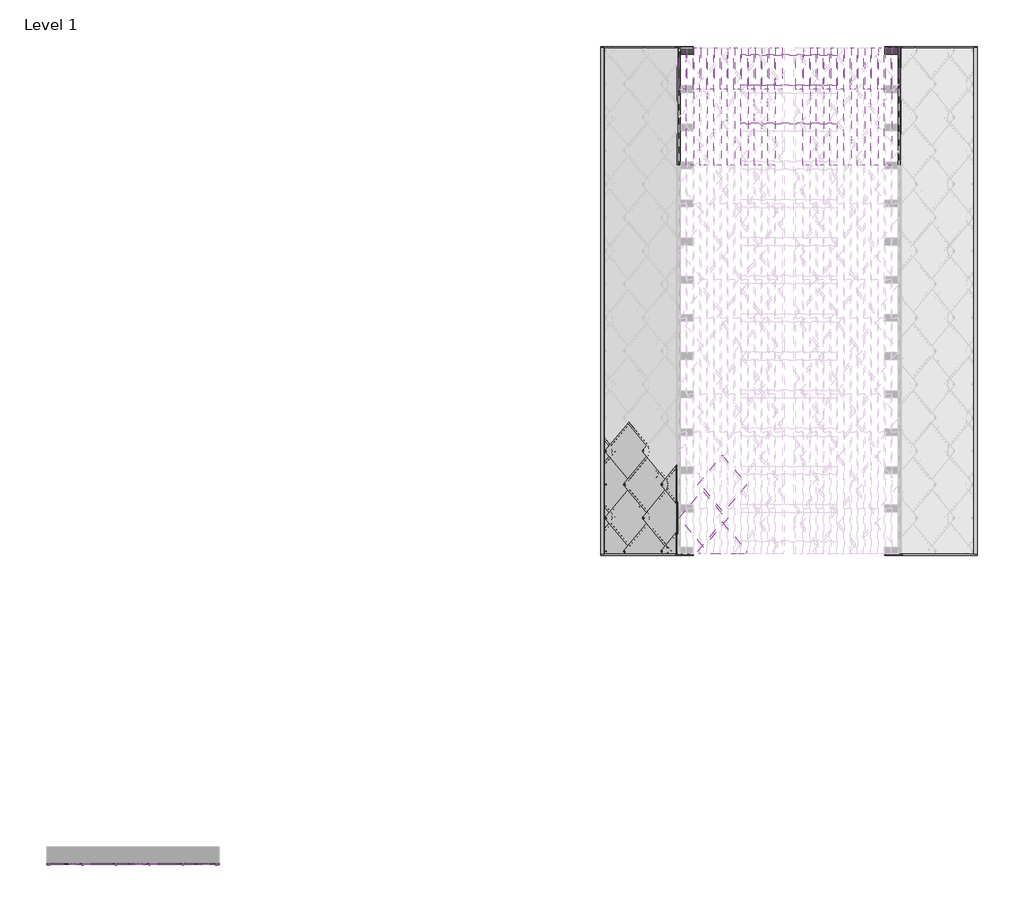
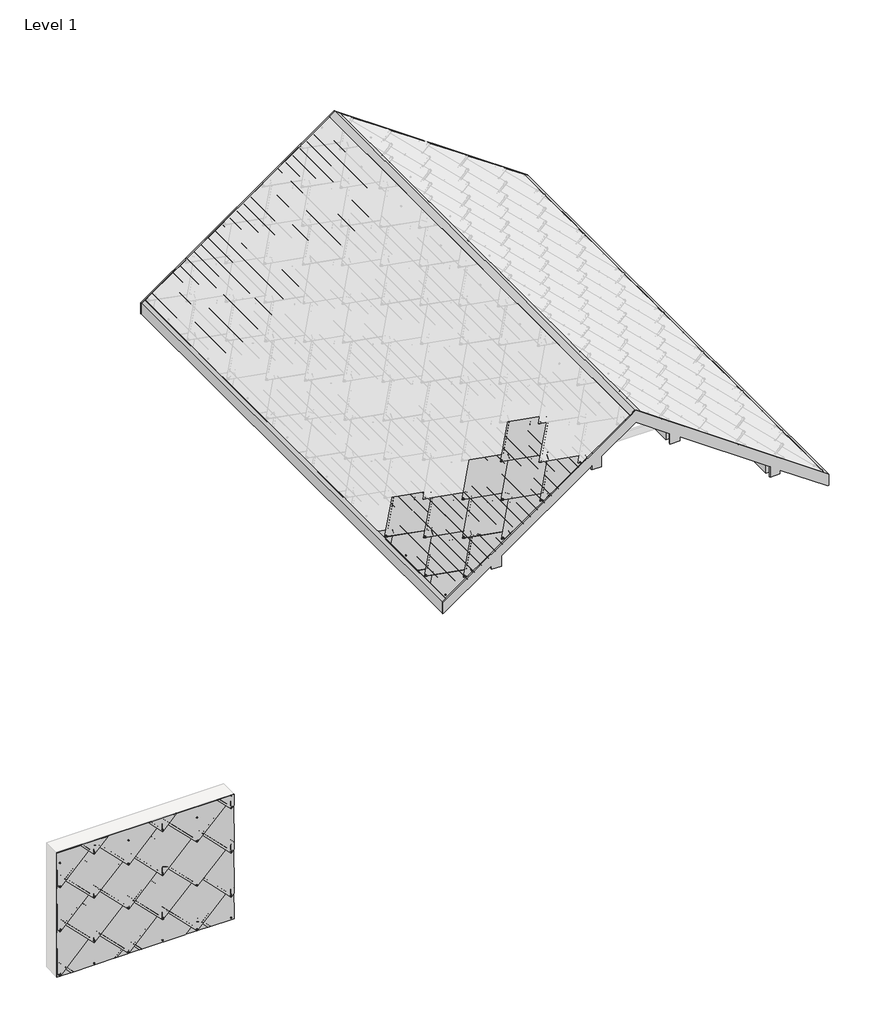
# One storey, part 3 of 5: 74 beams, 38 proxies.
"""IFC4 building model written with IfcOpenShell, lengths in millimetres."""

from ifc_helpers import new_model, si_unit, origin, place, context, project, spatial, transform, mapped, element, save
from components import structural_framing_1_structural_framing_1_4f4e03de, structural_framing_104_structural_framing_15_200a1adf, structural_framing_105_structural_framing_15_bbb8b2a2, structural_framing_150_structural_framing_15_f334a7cf, structural_framing_151_structural_framing_15_911aee75, structural_framing_152_structural_framing_15_fae30983, structural_framing_154_structural_framing_15_ddedf780, structural_framing_164_structural_framing_15_c8a2bcaa, structural_framing_155_structural_framing_15_fbad98d9, structural_framing_156_structural_framing_15_8572bb24, structural_framing_290_structural_framing_15_fb813978, structural_framing_291_structural_framing_15_41421fa0, structural_framing_293_structural_framing_15_7859e044, structural_framing_294_structural_framing_15_d6bc8154, structural_framing_295_structural_framing_295_6c3cb5e9, structural_framing_296_structural_framing_296_04115515, structural_framing_298_structural_framing_296_1c13a3da, structural_framing_321_structural_framing_321_04959c51, structural_framing_323_structural_framing_323_983c3ce1, structural_framing_324_structural_framing_323_6074106b, generic_models_167ef6fe, generic_models_283bab78, generic_models_68cb1fd1, generic_models_c61de7e8, generic_models_f07d85a3, generic_models_f7f51557, generic_models_13c94d74, generic_models_ae19c19d, generic_models_441e44e2, roofing_panels_sunstyle_tuile_basse_tuile_basse_noir_b4a41e6e, roofing_panels_sunstyle_tuile_haute_tuile_haute_noir_3c2a6519, generic_models_39b62107

model = new_model("IFC4")

# Units and contexts
model_context = context("Model", 3, world=origin())
ifc_project = project(units=[si_unit("LENGTHUNIT", "METRE", prefix="MILLI")], contexts=[model_context])

# Site, building, storey
site = spatial("IfcSite", under=ifc_project)
building = spatial("IfcBuilding", under=site)
storey = spatial("IfcBuildingStorey", under=building, Name="Level 1", Elevation=0.0)

# Beams
placement = place(None, origin())
structural_framing_1_structural_framing_1_shape = structural_framing_1_structural_framing_1_4f4e03de(model_context)
element("IfcBeam", 1, ObjectType="Structural Framing 1 : Structural Framing 1", at=placement, inside=storey, context=model_context, shape_type="MappedRepresentation", body=[
    mapped(structural_framing_1_structural_framing_1_shape, transform((0.0, 0.0, 0.0), x_axis=(1.0, 0.0, 0.0), y_axis=(0.0, 1.0, 0.0), z_axis=(0.0, 0.0, 1.0))),
])
structural_framing_104_structural_framing_15_shape = structural_framing_104_structural_framing_15_200a1adf(model_context)
element("IfcBeam", 2, ObjectType="Structural Framing 104 : Structural Framing 15", at=placement, inside=storey, context=model_context, shape_type="MappedRepresentation", body=[
    mapped(structural_framing_104_structural_framing_15_shape, transform((-2427.8516115, 0.0, -1700.0), x_axis=(1.0, 0.0, 0.0), y_axis=(0.0, 1.0, 0.0), z_axis=(0.0, 0.0, 1.0))),
])
structural_framing_105_structural_framing_15_shape = structural_framing_105_structural_framing_15_bbb8b2a2(model_context)
element("IfcBeam", 3, ObjectType="Structural Framing 105 : Structural Framing 15", at=placement, inside=storey, context=model_context, shape_type="MappedRepresentation", body=[
    mapped(structural_framing_105_structural_framing_15_shape, transform((-2570.6664121, 0.0, -1800.0), x_axis=(1.0, 0.0, 0.0), y_axis=(0.0, 1.0, 0.0), z_axis=(0.0, 0.0, 1.0))),
])
element("IfcBeam", 4, ObjectType="Structural Framing 114 : Structural Framing 15", at=placement, inside=storey, context=model_context, shape_type="MappedRepresentation", body=[
    mapped(structural_framing_104_structural_framing_15_shape, transform((-2713.4812128, 0.0, -1900.0), x_axis=(1.0, 0.0, 0.0), y_axis=(0.0, 1.0, 0.0), z_axis=(0.0, 0.0, 1.0))),
])
element("IfcBeam", 5, ObjectType="Structural Framing 115 : Structural Framing 15", at=placement, inside=storey, context=model_context, shape_type="MappedRepresentation", body=[
    mapped(structural_framing_105_structural_framing_15_shape, transform((-2856.2960135, 0.0, -2000.0), x_axis=(1.0, 0.0, 0.0), y_axis=(0.0, 1.0, 0.0), z_axis=(0.0, 0.0, 1.0))),
])
element("IfcBeam", 6, ObjectType="Structural Framing 124 : Structural Framing 15", at=placement, inside=storey, context=model_context, shape_type="MappedRepresentation", body=[
    mapped(structural_framing_104_structural_framing_15_shape, transform((-2999.1108142, 0.0, -2100.0), x_axis=(1.0, 0.0, 0.0), y_axis=(0.0, 1.0, 0.0), z_axis=(0.0, 0.0, 1.0))),
])
element("IfcBeam", 7, ObjectType="Structural Framing 125 : Structural Framing 15", at=placement, inside=storey, context=model_context, shape_type="MappedRepresentation", body=[
    mapped(structural_framing_105_structural_framing_15_shape, transform((-3141.9256148, 0.0, -2200.0), x_axis=(1.0, 0.0, 0.0), y_axis=(0.0, 1.0, 0.0), z_axis=(0.0, 0.0, 1.0))),
])
element("IfcBeam", 8, ObjectType="Structural Framing 134 : Structural Framing 15", at=placement, inside=storey, context=model_context, shape_type="MappedRepresentation", body=[
    mapped(structural_framing_104_structural_framing_15_shape, transform((-3284.7404155, 0.0, -2300.0), x_axis=(1.0, 0.0, 0.0), y_axis=(0.0, 1.0, 0.0), z_axis=(0.0, 0.0, 1.0))),
])
element("IfcBeam", 9, ObjectType="Structural Framing 135 : Structural Framing 15", at=placement, inside=storey, context=model_context, shape_type="MappedRepresentation", body=[
    mapped(structural_framing_105_structural_framing_15_shape, transform((-3427.5552162, 0.0, -2400.0), x_axis=(1.0, 0.0, 0.0), y_axis=(0.0, 1.0, 0.0), z_axis=(0.0, 0.0, 1.0))),
])
element("IfcBeam", 10, ObjectType="Structural Framing 144 : Structural Framing 15", at=placement, inside=storey, context=model_context, shape_type="MappedRepresentation", body=[
    mapped(structural_framing_104_structural_framing_15_shape, transform((-3570.3700169, 0.0, -2500.0), x_axis=(1.0, 0.0, 0.0), y_axis=(0.0, 1.0, 0.0), z_axis=(0.0, 0.0, 1.0))),
])
element("IfcBeam", 11, ObjectType="Structural Framing 145 : Structural Framing 15", at=placement, inside=storey, context=model_context, shape_type="MappedRepresentation", body=[
    mapped(structural_framing_105_structural_framing_15_shape, transform((-3713.1848175, 0.0, -2600.0), x_axis=(1.0, 0.0, 0.0), y_axis=(0.0, 1.0, 0.0), z_axis=(0.0, 0.0, 1.0))),
])
structural_framing_150_structural_framing_15_shape = structural_framing_150_structural_framing_15_f334a7cf(model_context)
element("IfcBeam", 12, ObjectType="Structural Framing 150 : Structural Framing 15", at=placement, inside=storey, context=model_context, shape_type="MappedRepresentation", body=[
    mapped(structural_framing_150_structural_framing_15_shape, transform((0.0, 0.0, 0.0), x_axis=(1.0, 0.0, 0.0), y_axis=(0.0, 1.0, 0.0), z_axis=(0.0, 0.0, 1.0))),
])
structural_framing_151_structural_framing_15_shape = structural_framing_151_structural_framing_15_911aee75(model_context)
element("IfcBeam", 13, ObjectType="Structural Framing 151 : Structural Framing 15", at=placement, inside=storey, context=model_context, shape_type="MappedRepresentation", body=[
    mapped(structural_framing_151_structural_framing_15_shape, transform((0.0, 2367.5, 0.0), x_axis=(1.0, 0.0, 0.0), y_axis=(0.0, 1.0, 0.0), z_axis=(0.0, 0.0, 1.0))),
])
structural_framing_152_structural_framing_15_shape = structural_framing_152_structural_framing_15_fae30983(model_context)
element("IfcBeam", 14, ObjectType="Structural Framing 152 : Structural Framing 15", at=placement, inside=storey, context=model_context, shape_type="MappedRepresentation", body=[
    mapped(structural_framing_152_structural_framing_15_shape, transform((0.0, 4837.5, 0.0), x_axis=(1.0, 0.0, 0.0), y_axis=(0.0, 1.0, 0.0), z_axis=(0.0, 0.0, 1.0))),
])
element("IfcBeam", 15, ObjectType="Structural Framing 153 : Structural Framing 15", at=placement, inside=storey, context=model_context, shape_type="MappedRepresentation", body=[
    mapped(structural_framing_152_structural_framing_15_shape, transform((0.0, 7237.5, 0.0), x_axis=(1.0, 0.0, 0.0), y_axis=(0.0, 1.0, 0.0), z_axis=(0.0, 0.0, 1.0))),
])
structural_framing_154_structural_framing_15_shape = structural_framing_154_structural_framing_15_ddedf780(model_context)
element("IfcBeam", 16, ObjectType="Structural Framing 154 : Structural Framing 15", at=placement, inside=storey, context=model_context, shape_type="MappedRepresentation", body=[
    mapped(structural_framing_154_structural_framing_15_shape, transform((0.0, 9637.5, 0.0), x_axis=(1.0, 0.0, 0.0), y_axis=(0.0, 1.0, 0.0), z_axis=(0.0, 0.0, 1.0))),
])
structural_framing_164_structural_framing_15_shape = structural_framing_164_structural_framing_15_c8a2bcaa(model_context)
element("IfcBeam", 17, ObjectType="Structural Framing 164 : Structural Framing 15", at=placement, inside=storey, context=model_context, shape_type="MappedRepresentation", body=[
    mapped(structural_framing_164_structural_framing_15_shape, transform((142.8148007, 0.0, -100.0), x_axis=(1.0, 0.0, 0.0), y_axis=(0.0, 1.0, 0.0), z_axis=(0.0, 0.0, 1.0))),
])
structural_framing_155_structural_framing_15_shape = structural_framing_155_structural_framing_15_fbad98d9(model_context)
element("IfcBeam", 18, ObjectType="Structural Framing 165 : Structural Framing 15", at=placement, inside=storey, context=model_context, shape_type="MappedRepresentation", body=[
    mapped(structural_framing_155_structural_framing_15_shape, transform((285.6296013, 0.0, -200.0), x_axis=(1.0, 0.0, 0.0), y_axis=(0.0, 1.0, 0.0), z_axis=(0.0, 0.0, 1.0))),
])
element("IfcBeam", 19, ObjectType="Structural Framing 174 : Structural Framing 15", at=placement, inside=storey, context=model_context, shape_type="MappedRepresentation", body=[
    mapped(structural_framing_164_structural_framing_15_shape, transform((428.444402, 0.0, -300.0), x_axis=(1.0, 0.0, 0.0), y_axis=(0.0, 1.0, 0.0), z_axis=(0.0, 0.0, 1.0))),
])
element("IfcBeam", 20, ObjectType="Structural Framing 175 : Structural Framing 15", at=placement, inside=storey, context=model_context, shape_type="MappedRepresentation", body=[
    mapped(structural_framing_155_structural_framing_15_shape, transform((571.2592027, 0.0, -400.0), x_axis=(1.0, 0.0, 0.0), y_axis=(0.0, 1.0, 0.0), z_axis=(0.0, 0.0, 1.0))),
])
element("IfcBeam", 21, ObjectType="Structural Framing 184 : Structural Framing 15", at=placement, inside=storey, context=model_context, shape_type="MappedRepresentation", body=[
    mapped(structural_framing_164_structural_framing_15_shape, transform((714.0740034, 0.0, -500.0), x_axis=(1.0, 0.0, 0.0), y_axis=(0.0, 1.0, 0.0), z_axis=(0.0, 0.0, 1.0))),
])
element("IfcBeam", 22, ObjectType="Structural Framing 185 : Structural Framing 15", at=placement, inside=storey, context=model_context, shape_type="MappedRepresentation", body=[
    mapped(structural_framing_155_structural_framing_15_shape, transform((856.888804, 0.0, -600.0), x_axis=(1.0, 0.0, 0.0), y_axis=(0.0, 1.0, 0.0), z_axis=(0.0, 0.0, 1.0))),
])
element("IfcBeam", 23, ObjectType="Structural Framing 194 : Structural Framing 15", at=placement, inside=storey, context=model_context, shape_type="MappedRepresentation", body=[
    mapped(structural_framing_164_structural_framing_15_shape, transform((999.7036047, 0.0, -700.0), x_axis=(1.0, 0.0, 0.0), y_axis=(0.0, 1.0, 0.0), z_axis=(0.0, 0.0, 1.0))),
])
element("IfcBeam", 24, ObjectType="Structural Framing 195 : Structural Framing 15", at=placement, inside=storey, context=model_context, shape_type="MappedRepresentation", body=[
    mapped(structural_framing_155_structural_framing_15_shape, transform((1142.5184054, 0.0, -800.0), x_axis=(1.0, 0.0, 0.0), y_axis=(0.0, 1.0, 0.0), z_axis=(0.0, 0.0, 1.0))),
])
element("IfcBeam", 25, ObjectType="Structural Framing 204 : Structural Framing 15", at=placement, inside=storey, context=model_context, shape_type="MappedRepresentation", body=[
    mapped(structural_framing_164_structural_framing_15_shape, transform((1285.3332061, 0.0, -900.0), x_axis=(1.0, 0.0, 0.0), y_axis=(0.0, 1.0, 0.0), z_axis=(0.0, 0.0, 1.0))),
])
element("IfcBeam", 26, ObjectType="Structural Framing 205 : Structural Framing 15", at=placement, inside=storey, context=model_context, shape_type="MappedRepresentation", body=[
    mapped(structural_framing_155_structural_framing_15_shape, transform((1428.1480067, 0.0, -1000.0), x_axis=(1.0, 0.0, 0.0), y_axis=(0.0, 1.0, 0.0), z_axis=(0.0, 0.0, 1.0))),
])
element("IfcBeam", 27, ObjectType="Structural Framing 214 : Structural Framing 15", at=placement, inside=storey, context=model_context, shape_type="MappedRepresentation", body=[
    mapped(structural_framing_164_structural_framing_15_shape, transform((1570.9628074, 0.0, -1100.0), x_axis=(1.0, 0.0, 0.0), y_axis=(0.0, 1.0, 0.0), z_axis=(0.0, 0.0, 1.0))),
])
element("IfcBeam", 28, ObjectType="Structural Framing 215 : Structural Framing 15", at=placement, inside=storey, context=model_context, shape_type="MappedRepresentation", body=[
    mapped(structural_framing_155_structural_framing_15_shape, transform((1713.7776081, 0.0, -1200.0), x_axis=(1.0, 0.0, 0.0), y_axis=(0.0, 1.0, 0.0), z_axis=(0.0, 0.0, 1.0))),
])
element("IfcBeam", 29, ObjectType="Structural Framing 224 : Structural Framing 15", at=placement, inside=storey, context=model_context, shape_type="MappedRepresentation", body=[
    mapped(structural_framing_164_structural_framing_15_shape, transform((1856.5924088, 0.0, -1300.0), x_axis=(1.0, 0.0, 0.0), y_axis=(0.0, 1.0, 0.0), z_axis=(0.0, 0.0, 1.0))),
])
element("IfcBeam", 30, ObjectType="Structural Framing 225 : Structural Framing 15", at=placement, inside=storey, context=model_context, shape_type="MappedRepresentation", body=[
    mapped(structural_framing_155_structural_framing_15_shape, transform((1999.4072094, 0.0, -1400.0), x_axis=(1.0, 0.0, 0.0), y_axis=(0.0, 1.0, 0.0), z_axis=(0.0, 0.0, 1.0))),
])
element("IfcBeam", 31, ObjectType="Structural Framing 234 : Structural Framing 15", at=placement, inside=storey, context=model_context, shape_type="MappedRepresentation", body=[
    mapped(structural_framing_164_structural_framing_15_shape, transform((2142.2220101, 0.0, -1500.0), x_axis=(1.0, 0.0, 0.0), y_axis=(0.0, 1.0, 0.0), z_axis=(0.0, 0.0, 1.0))),
])
element("IfcBeam", 32, ObjectType="Structural Framing 235 : Structural Framing 15", at=placement, inside=storey, context=model_context, shape_type="MappedRepresentation", body=[
    mapped(structural_framing_155_structural_framing_15_shape, transform((2285.0368108, 0.0, -1600.0), x_axis=(1.0, 0.0, 0.0), y_axis=(0.0, 1.0, 0.0), z_axis=(0.0, 0.0, 1.0))),
])
element("IfcBeam", 33, ObjectType="Structural Framing 24 : Structural Framing 15", at=placement, inside=storey, context=model_context, shape_type="MappedRepresentation", body=[
    mapped(structural_framing_104_structural_framing_15_shape, transform((-142.8148007, 0.0, -100.0), x_axis=(1.0, 0.0, 0.0), y_axis=(0.0, 1.0, 0.0), z_axis=(0.0, 0.0, 1.0))),
])
element("IfcBeam", 34, ObjectType="Structural Framing 244 : Structural Framing 15", at=placement, inside=storey, context=model_context, shape_type="MappedRepresentation", body=[
    mapped(structural_framing_164_structural_framing_15_shape, transform((2427.8516115, 0.0, -1700.0), x_axis=(1.0, 0.0, 0.0), y_axis=(0.0, 1.0, 0.0), z_axis=(0.0, 0.0, 1.0))),
])
element("IfcBeam", 35, ObjectType="Structural Framing 245 : Structural Framing 15", at=placement, inside=storey, context=model_context, shape_type="MappedRepresentation", body=[
    mapped(structural_framing_155_structural_framing_15_shape, transform((2570.6664121, 0.0, -1800.0), x_axis=(1.0, 0.0, 0.0), y_axis=(0.0, 1.0, 0.0), z_axis=(0.0, 0.0, 1.0))),
])
element("IfcBeam", 36, ObjectType="Structural Framing 25 : Structural Framing 15", at=placement, inside=storey, context=model_context, shape_type="MappedRepresentation", body=[
    mapped(structural_framing_105_structural_framing_15_shape, transform((-285.6296013, 0.0, -200.0), x_axis=(1.0, 0.0, 0.0), y_axis=(0.0, 1.0, 0.0), z_axis=(0.0, 0.0, 1.0))),
])
structural_framing_156_structural_framing_15_shape = structural_framing_156_structural_framing_15_8572bb24(model_context)
element("IfcBeam", 37, ObjectType="Structural Framing 250 : Structural Framing 15", at=placement, inside=storey, context=model_context, shape_type="MappedRepresentation", body=[
    mapped(structural_framing_156_structural_framing_15_shape, transform((2713.4812128, -870.0, -1900.0), x_axis=(1.0, 0.0, 0.0), y_axis=(0.0, 1.0, 0.0), z_axis=(0.0, 0.0, 1.0))),
])
element("IfcBeam", 38, ObjectType="Structural Framing 254 : Structural Framing 15", at=placement, inside=storey, context=model_context, shape_type="MappedRepresentation", body=[
    mapped(structural_framing_164_structural_framing_15_shape, transform((2713.4812128, 0.0, -1900.0), x_axis=(1.0, 0.0, 0.0), y_axis=(0.0, 1.0, 0.0), z_axis=(0.0, 0.0, 1.0))),
])
element("IfcBeam", 39, ObjectType="Structural Framing 255 : Structural Framing 15", at=placement, inside=storey, context=model_context, shape_type="MappedRepresentation", body=[
    mapped(structural_framing_155_structural_framing_15_shape, transform((2856.2960135, 0.0, -2000.0), x_axis=(1.0, 0.0, 0.0), y_axis=(0.0, 1.0, 0.0), z_axis=(0.0, 0.0, 1.0))),
])
element("IfcBeam", 40, ObjectType="Structural Framing 260 : Structural Framing 15", at=placement, inside=storey, context=model_context, shape_type="MappedRepresentation", body=[
    mapped(structural_framing_156_structural_framing_15_shape, transform((2999.1108142, -870.0, -2100.0), x_axis=(1.0, 0.0, 0.0), y_axis=(0.0, 1.0, 0.0), z_axis=(0.0, 0.0, 1.0))),
])
element("IfcBeam", 41, ObjectType="Structural Framing 264 : Structural Framing 15", at=placement, inside=storey, context=model_context, shape_type="MappedRepresentation", body=[
    mapped(structural_framing_164_structural_framing_15_shape, transform((2999.1108142, 0.0, -2100.0), x_axis=(1.0, 0.0, 0.0), y_axis=(0.0, 1.0, 0.0), z_axis=(0.0, 0.0, 1.0))),
])
element("IfcBeam", 42, ObjectType="Structural Framing 265 : Structural Framing 15", at=placement, inside=storey, context=model_context, shape_type="MappedRepresentation", body=[
    mapped(structural_framing_155_structural_framing_15_shape, transform((3141.9256148, 0.0, -2200.0), x_axis=(1.0, 0.0, 0.0), y_axis=(0.0, 1.0, 0.0), z_axis=(0.0, 0.0, 1.0))),
])
element("IfcBeam", 43, ObjectType="Structural Framing 270 : Structural Framing 15", at=placement, inside=storey, context=model_context, shape_type="MappedRepresentation", body=[
    mapped(structural_framing_156_structural_framing_15_shape, transform((3284.7404155, -870.0, -2300.0), x_axis=(1.0, 0.0, 0.0), y_axis=(0.0, 1.0, 0.0), z_axis=(0.0, 0.0, 1.0))),
])
element("IfcBeam", 44, ObjectType="Structural Framing 274 : Structural Framing 15", at=placement, inside=storey, context=model_context, shape_type="MappedRepresentation", body=[
    mapped(structural_framing_164_structural_framing_15_shape, transform((3284.7404155, 0.0, -2300.0), x_axis=(1.0, 0.0, 0.0), y_axis=(0.0, 1.0, 0.0), z_axis=(0.0, 0.0, 1.0))),
])
element("IfcBeam", 45, ObjectType="Structural Framing 275 : Structural Framing 15", at=placement, inside=storey, context=model_context, shape_type="MappedRepresentation", body=[
    mapped(structural_framing_155_structural_framing_15_shape, transform((3427.5552162, 0.0, -2400.0), x_axis=(1.0, 0.0, 0.0), y_axis=(0.0, 1.0, 0.0), z_axis=(0.0, 0.0, 1.0))),
])
element("IfcBeam", 46, ObjectType="Structural Framing 280 : Structural Framing 15", at=placement, inside=storey, context=model_context, shape_type="MappedRepresentation", body=[
    mapped(structural_framing_156_structural_framing_15_shape, transform((3570.3700169, -870.0, -2500.0), x_axis=(1.0, 0.0, 0.0), y_axis=(0.0, 1.0, 0.0), z_axis=(0.0, 0.0, 1.0))),
])
element("IfcBeam", 47, ObjectType="Structural Framing 284 : Structural Framing 15", at=placement, inside=storey, context=model_context, shape_type="MappedRepresentation", body=[
    mapped(structural_framing_164_structural_framing_15_shape, transform((3570.3700169, 0.0, -2500.0), x_axis=(1.0, 0.0, 0.0), y_axis=(0.0, 1.0, 0.0), z_axis=(0.0, 0.0, 1.0))),
])
element("IfcBeam", 48, ObjectType="Structural Framing 285 : Structural Framing 15", at=placement, inside=storey, context=model_context, shape_type="MappedRepresentation", body=[
    mapped(structural_framing_155_structural_framing_15_shape, transform((3713.1848175, 0.0, -2600.0), x_axis=(1.0, 0.0, 0.0), y_axis=(0.0, 1.0, 0.0), z_axis=(0.0, 0.0, 1.0))),
])
structural_framing_290_structural_framing_15_shape = structural_framing_290_structural_framing_15_fb813978(model_context)
element("IfcBeam", 49, ObjectType="Structural Framing 290 : Structural Framing 15", at=placement, inside=storey, context=model_context, shape_type="MappedRepresentation", body=[
    mapped(structural_framing_290_structural_framing_15_shape, transform((0.0, 2367.5, 0.0), x_axis=(1.0, 0.0, 0.0), y_axis=(0.0, 1.0, 0.0), z_axis=(0.0, 0.0, 1.0))),
])
structural_framing_291_structural_framing_15_shape = structural_framing_291_structural_framing_15_41421fa0(model_context)
element("IfcBeam", 50, ObjectType="Structural Framing 291 : Structural Framing 15", at=placement, inside=storey, context=model_context, shape_type="MappedRepresentation", body=[
    mapped(structural_framing_291_structural_framing_15_shape, transform((0.0, 4837.5, 0.0), x_axis=(1.0, 0.0, 0.0), y_axis=(0.0, 1.0, 0.0), z_axis=(0.0, 0.0, 1.0))),
])
element("IfcBeam", 51, ObjectType="Structural Framing 292 : Structural Framing 15", at=placement, inside=storey, context=model_context, shape_type="MappedRepresentation", body=[
    mapped(structural_framing_291_structural_framing_15_shape, transform((0.0, 7237.5, 0.0), x_axis=(1.0, 0.0, 0.0), y_axis=(0.0, 1.0, 0.0), z_axis=(0.0, 0.0, 1.0))),
])
structural_framing_293_structural_framing_15_shape = structural_framing_293_structural_framing_15_7859e044(model_context)
element("IfcBeam", 52, ObjectType="Structural Framing 293 : Structural Framing 15", at=placement, inside=storey, context=model_context, shape_type="MappedRepresentation", body=[
    mapped(structural_framing_293_structural_framing_15_shape, transform((0.0, 0.0, 0.0), x_axis=(1.0, 0.0, 0.0), y_axis=(0.0, 1.0, 0.0), z_axis=(0.0, 0.0, 1.0))),
])
structural_framing_294_structural_framing_15_shape = structural_framing_294_structural_framing_15_d6bc8154(model_context)
element("IfcBeam", 53, ObjectType="Structural Framing 294 : Structural Framing 15", at=placement, inside=storey, context=model_context, shape_type="MappedRepresentation", body=[
    mapped(structural_framing_294_structural_framing_15_shape, transform((0.0, 9637.5, 0.0), x_axis=(1.0, 0.0, 0.0), y_axis=(0.0, 1.0, 0.0), z_axis=(0.0, 0.0, 1.0))),
])
structural_framing_295_structural_framing_295_shape = structural_framing_295_structural_framing_295_6c3cb5e9(model_context)
element("IfcBeam", 54, ObjectType="Structural Framing 295 : Structural Framing 295", at=placement, inside=storey, context=model_context, shape_type="MappedRepresentation", body=[
    mapped(structural_framing_295_structural_framing_295_shape, transform((0.0, 0.0, 0.0), x_axis=(1.0, 0.0, 0.0), y_axis=(0.0, 1.0, 0.0), z_axis=(0.0, 0.0, 1.0))),
])
structural_framing_296_structural_framing_296_shape = structural_framing_296_structural_framing_296_04115515(model_context)
element("IfcBeam", 55, ObjectType="Structural Framing 296 : Structural Framing 296", at=placement, inside=storey, context=model_context, shape_type="MappedRepresentation", body=[
    mapped(structural_framing_296_structural_framing_296_shape, transform((0.0, 0.0, 0.0), x_axis=(1.0, 0.0, 0.0), y_axis=(0.0, 1.0, 0.0), z_axis=(0.0, 0.0, 1.0))),
])
structural_framing_298_structural_framing_296_shape = structural_framing_298_structural_framing_296_1c13a3da(model_context)
element("IfcBeam", 56, ObjectType="Structural Framing 298 : Structural Framing 296", at=placement, inside=storey, context=model_context, shape_type="MappedRepresentation", body=[
    mapped(structural_framing_298_structural_framing_296_shape, transform((0.0, 800.0, 0.0), x_axis=(1.0, 0.0, 0.0), y_axis=(0.0, 1.0, 0.0), z_axis=(0.0, 0.0, 1.0))),
])
element("IfcBeam", 57, ObjectType="Structural Framing 300 : Structural Framing 296", at=placement, inside=storey, context=model_context, shape_type="MappedRepresentation", body=[
    mapped(structural_framing_298_structural_framing_296_shape, transform((0.0, 0.0, 0.0), x_axis=(1.0, 0.0, 0.0), y_axis=(0.0, 1.0, 0.0), z_axis=(0.0, 0.0, 1.0))),
])
structural_framing_321_structural_framing_321_shape = structural_framing_321_structural_framing_321_04959c51(model_context)
element("IfcBeam", 58, ObjectType="Structural Framing 321 : Structural Framing 321", at=placement, inside=storey, context=model_context, shape_type="MappedRepresentation", body=[
    mapped(structural_framing_321_structural_framing_321_shape, transform((0.0, 0.0, 0.0), x_axis=(1.0, 0.0, 0.0), y_axis=(0.0, 1.0, 0.0), z_axis=(0.0, 0.0, 1.0))),
])
structural_framing_323_structural_framing_323_shape = structural_framing_323_structural_framing_323_983c3ce1(model_context)
element("IfcBeam", 59, ObjectType="Structural Framing 323 : Structural Framing 323", at=placement, inside=storey, context=model_context, shape_type="MappedRepresentation", body=[
    mapped(structural_framing_323_structural_framing_323_shape, transform((0.0, 0.0, 0.0), x_axis=(1.0, 0.0, 0.0), y_axis=(0.0, 1.0, 0.0), z_axis=(0.0, 0.0, 1.0))),
])
structural_framing_324_structural_framing_323_shape = structural_framing_324_structural_framing_323_6074106b(model_context)
element("IfcBeam", 60, ObjectType="Structural Framing 324 : Structural Framing 323", at=placement, inside=storey, context=model_context, shape_type="MappedRepresentation", body=[
    mapped(structural_framing_324_structural_framing_323_shape, transform((0.0, 0.0, 0.0), x_axis=(1.0, 0.0, 0.0), y_axis=(0.0, 1.0, 0.0), z_axis=(0.0, 0.0, 1.0))),
])
element("IfcBeam", 61, ObjectType="Structural Framing 34 : Structural Framing 15", at=placement, inside=storey, context=model_context, shape_type="MappedRepresentation", body=[
    mapped(structural_framing_104_structural_framing_15_shape, transform((-428.444402, 0.0, -300.0), x_axis=(1.0, 0.0, 0.0), y_axis=(0.0, 1.0, 0.0), z_axis=(0.0, 0.0, 1.0))),
])
element("IfcBeam", 62, ObjectType="Structural Framing 35 : Structural Framing 15", at=placement, inside=storey, context=model_context, shape_type="MappedRepresentation", body=[
    mapped(structural_framing_105_structural_framing_15_shape, transform((-571.2592027, 0.0, -400.0), x_axis=(1.0, 0.0, 0.0), y_axis=(0.0, 1.0, 0.0), z_axis=(0.0, 0.0, 1.0))),
])
element("IfcBeam", 63, ObjectType="Structural Framing 44 : Structural Framing 15", at=placement, inside=storey, context=model_context, shape_type="MappedRepresentation", body=[
    mapped(structural_framing_104_structural_framing_15_shape, transform((-714.0740034, 0.0, -500.0), x_axis=(1.0, 0.0, 0.0), y_axis=(0.0, 1.0, 0.0), z_axis=(0.0, 0.0, 1.0))),
])
element("IfcBeam", 64, ObjectType="Structural Framing 45 : Structural Framing 15", at=placement, inside=storey, context=model_context, shape_type="MappedRepresentation", body=[
    mapped(structural_framing_105_structural_framing_15_shape, transform((-856.888804, 0.0, -600.0), x_axis=(1.0, 0.0, 0.0), y_axis=(0.0, 1.0, 0.0), z_axis=(0.0, 0.0, 1.0))),
])
element("IfcBeam", 65, ObjectType="Structural Framing 54 : Structural Framing 15", at=placement, inside=storey, context=model_context, shape_type="MappedRepresentation", body=[
    mapped(structural_framing_104_structural_framing_15_shape, transform((-999.7036047, 0.0, -700.0), x_axis=(1.0, 0.0, 0.0), y_axis=(0.0, 1.0, 0.0), z_axis=(0.0, 0.0, 1.0))),
])
element("IfcBeam", 66, ObjectType="Structural Framing 55 : Structural Framing 15", at=placement, inside=storey, context=model_context, shape_type="MappedRepresentation", body=[
    mapped(structural_framing_105_structural_framing_15_shape, transform((-1142.5184054, 0.0, -800.0), x_axis=(1.0, 0.0, 0.0), y_axis=(0.0, 1.0, 0.0), z_axis=(0.0, 0.0, 1.0))),
])
element("IfcBeam", 67, ObjectType="Structural Framing 64 : Structural Framing 15", at=placement, inside=storey, context=model_context, shape_type="MappedRepresentation", body=[
    mapped(structural_framing_104_structural_framing_15_shape, transform((-1285.3332061, 0.0, -900.0), x_axis=(1.0, 0.0, 0.0), y_axis=(0.0, 1.0, 0.0), z_axis=(0.0, 0.0, 1.0))),
])
element("IfcBeam", 68, ObjectType="Structural Framing 65 : Structural Framing 15", at=placement, inside=storey, context=model_context, shape_type="MappedRepresentation", body=[
    mapped(structural_framing_105_structural_framing_15_shape, transform((-1428.1480067, 0.0, -1000.0), x_axis=(1.0, 0.0, 0.0), y_axis=(0.0, 1.0, 0.0), z_axis=(0.0, 0.0, 1.0))),
])
element("IfcBeam", 69, ObjectType="Structural Framing 74 : Structural Framing 15", at=placement, inside=storey, context=model_context, shape_type="MappedRepresentation", body=[
    mapped(structural_framing_104_structural_framing_15_shape, transform((-1570.9628074, 0.0, -1100.0), x_axis=(1.0, 0.0, 0.0), y_axis=(0.0, 1.0, 0.0), z_axis=(0.0, 0.0, 1.0))),
])
element("IfcBeam", 70, ObjectType="Structural Framing 75 : Structural Framing 15", at=placement, inside=storey, context=model_context, shape_type="MappedRepresentation", body=[
    mapped(structural_framing_105_structural_framing_15_shape, transform((-1713.7776081, 0.0, -1200.0), x_axis=(1.0, 0.0, 0.0), y_axis=(0.0, 1.0, 0.0), z_axis=(0.0, 0.0, 1.0))),
])
element("IfcBeam", 71, ObjectType="Structural Framing 84 : Structural Framing 15", at=placement, inside=storey, context=model_context, shape_type="MappedRepresentation", body=[
    mapped(structural_framing_104_structural_framing_15_shape, transform((-1856.5924088, 0.0, -1300.0), x_axis=(1.0, 0.0, 0.0), y_axis=(0.0, 1.0, 0.0), z_axis=(0.0, 0.0, 1.0))),
])
element("IfcBeam", 72, ObjectType="Structural Framing 85 : Structural Framing 15", at=placement, inside=storey, context=model_context, shape_type="MappedRepresentation", body=[
    mapped(structural_framing_105_structural_framing_15_shape, transform((-1999.4072094, 0.0, -1400.0), x_axis=(1.0, 0.0, 0.0), y_axis=(0.0, 1.0, 0.0), z_axis=(0.0, 0.0, 1.0))),
])
element("IfcBeam", 73, ObjectType="Structural Framing 94 : Structural Framing 15", at=placement, inside=storey, context=model_context, shape_type="MappedRepresentation", body=[
    mapped(structural_framing_104_structural_framing_15_shape, transform((-2142.2220101, 0.0, -1500.0), x_axis=(1.0, 0.0, 0.0), y_axis=(0.0, 1.0, 0.0), z_axis=(0.0, 0.0, 1.0))),
])
element("IfcBeam", 74, ObjectType="Structural Framing 95 : Structural Framing 15", at=placement, inside=storey, context=model_context, shape_type="MappedRepresentation", body=[
    mapped(structural_framing_105_structural_framing_15_shape, transform((-2285.0368108, 0.0, -1600.0), x_axis=(1.0, 0.0, 0.0), y_axis=(0.0, 1.0, 0.0), z_axis=(0.0, 0.0, 1.0))),
])

# Proxies
generic_models_shape = generic_models_167ef6fe(model_context)
element("IfcBuildingElementProxy", 75, Name="Roofing_Solar-Panels_SunStyle_Tuile-Sunstyle : Tuile Sunstyle - Noir", ObjectType="Roofing_Solar-Panels_SunStyle_Tuile-Sunstyle : Tuile Sunstyle - Noir", at=placement, inside=storey, context=model_context, shape_type="MappedRepresentation", body=[
    mapped(generic_models_shape, transform((-1750.3642228, -5241.4048058, 759.9054535), x_axis=(0.0, -1.0, 0.0), y_axis=(0.8191520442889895, 0.0, 0.5735764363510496), z_axis=(-0.5735764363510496, 0.0, 0.8191520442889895))),
])
element("IfcBuildingElementProxy", 76, Name="Roofing_Solar-Panels_SunStyle_Tuile-Sunstyle : Tuile Sunstyle - Noir", ObjectType="Roofing_Solar-Panels_SunStyle_Tuile-Sunstyle : Tuile Sunstyle - Noir", at=placement, inside=storey, context=model_context, shape_type="MappedRepresentation", body=[
    mapped(generic_models_shape, transform((-968.0740205, -5241.4048058, 1307.6709502), x_axis=(0.0, -1.0, 0.0), y_axis=(0.8191520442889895, 0.0, 0.5735764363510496), z_axis=(-0.5735764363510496, 0.0, 0.8191520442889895))),
])
element("IfcBuildingElementProxy", 77, Name="Roofing_Solar-Panels_SunStyle_Tuile-Sunstyle : Tuile Sunstyle - Noir", ObjectType="Roofing_Solar-Panels_SunStyle_Tuile-Sunstyle : Tuile Sunstyle - Noir", at=placement, inside=storey, context=model_context, shape_type="MappedRepresentation", body=[
    mapped(generic_models_shape, transform((-185.7838182, -5241.4048058, 1855.4364469), x_axis=(0.0, -1.0, 0.0), y_axis=(0.8191520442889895, 0.0, 0.5735764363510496), z_axis=(-0.5735764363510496, 0.0, 0.8191520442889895))),
])
element("IfcBuildingElementProxy", 78, Name="Roofing_Solar-Panels_SunStyle_Tuile-Sunstyle : Tuile Sunstyle - Noir", ObjectType="Roofing_Solar-Panels_SunStyle_Tuile-Sunstyle : Tuile Sunstyle - Noir", at=placement, inside=storey, context=model_context, shape_type="MappedRepresentation", body=[
    mapped(generic_models_shape, transform((-576.9289193, -5941.9048058, 1581.5536986), x_axis=(0.0, -1.0, 0.0), y_axis=(0.8191520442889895, 0.0, 0.5735764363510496), z_axis=(-0.5735764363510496, 0.0, 0.8191520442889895))),
])
element("IfcBuildingElementProxy", 79, Name="Roofing_Solar-Panels_SunStyle_Tuile-Sunstyle : Tuile Sunstyle - Noir", ObjectType="Roofing_Solar-Panels_SunStyle_Tuile-Sunstyle : Tuile Sunstyle - Noir", at=placement, inside=storey, context=model_context, shape_type="MappedRepresentation", body=[
    mapped(generic_models_shape, transform((-1359.2191216, -5941.9048058, 1033.7882019), x_axis=(0.0, -1.0, 0.0), y_axis=(0.8191520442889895, 0.0, 0.5735764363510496), z_axis=(-0.5735764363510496, 0.0, 0.8191520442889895))),
])
element("IfcBuildingElementProxy", 80, Name="Roofing_Solar-Panels_SunStyle_Tuile-Sunstyle : Tuile Sunstyle - Noir", ObjectType="Roofing_Solar-Panels_SunStyle_Tuile-Sunstyle : Tuile Sunstyle - Noir", at=placement, inside=storey, context=model_context, shape_type="MappedRepresentation", body=[
    mapped(generic_models_shape, transform((-2141.5093239, -4540.9048058, 486.0227052), x_axis=(0.0, -1.0, 0.0), y_axis=(0.8191520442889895, 0.0, 0.5735764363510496), z_axis=(-0.5735764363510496, 0.0, 0.8191520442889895))),
])
element("IfcBuildingElementProxy", 81, Name="Roofing_Solar-Panels_SunStyle_Tuile-Sunstyle : Tuile Sunstyle - Noir", ObjectType="Roofing_Solar-Panels_SunStyle_Tuile-Sunstyle : Tuile Sunstyle - Noir", at=placement, inside=storey, context=model_context, shape_type="MappedRepresentation", body=[
    mapped(generic_models_shape, transform((-2141.5093239, -5941.9048058, 486.0227052), x_axis=(0.0, -1.0, 0.0), y_axis=(0.8191520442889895, 0.0, 0.5735764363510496), z_axis=(-0.5735764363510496, 0.0, 0.8191520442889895))),
])
element("IfcBuildingElementProxy", 82, Name="Roofing_Solar-Panels_SunStyle_Tuile-Sunstyle : Tuile Sunstyle - Terracotta", ObjectType="Roofing_Solar-Panels_SunStyle_Tuile-Sunstyle : Tuile Sunstyle - Terracotta", at=placement, inside=storey, context=model_context, shape_type="MappedRepresentation", body=[
    mapped(generic_models_shape, transform((-13607.7909552, -13191.8736519, 2058.2267543), x_axis=(1.0, 0.0, 0.0), y_axis=(0.0, 0.0, 1.0), z_axis=(0.0, -1.0, 0.0))),
])
element("IfcBuildingElementProxy", 83, Name="Roofing_Solar-Panels_SunStyle_Tuile-Sunstyle : Tuile Sunstyle - Terracotta", ObjectType="Roofing_Solar-Panels_SunStyle_Tuile-Sunstyle : Tuile Sunstyle - Terracotta", at=placement, inside=storey, context=model_context, shape_type="MappedRepresentation", body=[
    mapped(generic_models_shape, transform((-12207.7909552, -13191.8736519, 2058.2267543), x_axis=(1.0, 0.0, 0.0), y_axis=(0.0, 0.0, 1.0), z_axis=(0.0, -1.0, 0.0))),
])
element("IfcBuildingElementProxy", 84, Name="Roofing_Solar-Panels_SunStyle_Tuile-Sunstyle : Tuile Sunstyle - Terracotta", ObjectType="Roofing_Solar-Panels_SunStyle_Tuile-Sunstyle : Tuile Sunstyle - Terracotta", at=placement, inside=storey, context=model_context, shape_type="MappedRepresentation", body=[
    mapped(generic_models_shape, transform((-13607.7909552, -13191.8736519, 1104.2267543), x_axis=(1.0, 0.0, 0.0), y_axis=(0.0, 0.0, 1.0), z_axis=(0.0, -1.0, 0.0))),
])
element("IfcBuildingElementProxy", 85, Name="Roofing_Solar-Panels_SunStyle_Tuile-Sunstyle : Tuile Sunstyle - Terracotta", ObjectType="Roofing_Solar-Panels_SunStyle_Tuile-Sunstyle : Tuile Sunstyle - Terracotta", at=placement, inside=storey, context=model_context, shape_type="MappedRepresentation", body=[
    mapped(generic_models_shape, transform((-12207.7909552, -13191.8736519, 1104.2267543), x_axis=(1.0, 0.0, 0.0), y_axis=(0.0, 0.0, 1.0), z_axis=(0.0, -1.0, 0.0))),
])
generic_models_2_shape = generic_models_283bab78(model_context)
element("IfcBuildingElementProxy", 86, Name="Roofing_Panels_SunStyle_Tuile-Droite : Tuile Droite - Noir", ObjectType="Roofing_Panels_SunStyle_Tuile-Droite : Tuile Droite - Noir", at=placement, inside=storey, context=model_context, shape_type="MappedRepresentation", body=[
    mapped(generic_models_2_shape, transform((-185.7838182, -6642.4048058, 1855.4364469), x_axis=(0.0, -1.0, 0.0), y_axis=(0.8191520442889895, 0.0, 0.5735764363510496), z_axis=(-0.5735764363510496, 0.0, 0.8191520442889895))),
])
element("IfcBuildingElementProxy", 87, Name="Roofing_Panels_SunStyle_Tuile-Droite : Tuile Droite - Noir", ObjectType="Roofing_Panels_SunStyle_Tuile-Droite : Tuile Droite - Noir", at=placement, inside=storey, context=model_context, shape_type="MappedRepresentation", body=[
    mapped(generic_models_2_shape, transform((-968.0740205, -6642.4048058, 1307.6709502), x_axis=(0.0, -1.0, 0.0), y_axis=(0.8191520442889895, 0.0, 0.5735764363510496), z_axis=(-0.5735764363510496, 0.0, 0.8191520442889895))),
])
element("IfcBuildingElementProxy", 88, Name="Roofing_Panels_SunStyle_Tuile-Droite : Tuile Droite - Noir", ObjectType="Roofing_Panels_SunStyle_Tuile-Droite : Tuile Droite - Noir", at=placement, inside=storey, context=model_context, shape_type="MappedRepresentation", body=[
    mapped(generic_models_2_shape, transform((-1750.3642228, -6642.4048058, 759.9054535), x_axis=(0.0, -1.0, 0.0), y_axis=(0.8191520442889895, 0.0, 0.5735764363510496), z_axis=(-0.5735764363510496, 0.0, 0.8191520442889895))),
])
element("IfcBuildingElementProxy", 89, Name="Roofing_Panels_SunStyle_Tuile-Droite : Tuile Droite - Terracotta", ObjectType="Roofing_Panels_SunStyle_Tuile-Droite : Tuile Droite - Terracotta", at=placement, inside=storey, context=model_context, shape_type="MappedRepresentation", body=[
    mapped(generic_models_2_shape, transform((-10807.7909552, -13191.8736519, 1104.2267543), x_axis=(1.0, 0.0, 0.0), y_axis=(0.0, 0.0, 1.0), z_axis=(0.0, -1.0, 0.0))),
])
element("IfcBuildingElementProxy", 90, Name="Roofing_Panels_SunStyle_Tuile-Droite : Tuile Droite - Terracotta", ObjectType="Roofing_Panels_SunStyle_Tuile-Droite : Tuile Droite - Terracotta", at=placement, inside=storey, context=model_context, shape_type="MappedRepresentation", body=[
    mapped(generic_models_2_shape, transform((-10807.7909552, -13191.8736519, 2058.2267543), x_axis=(1.0, 0.0, 0.0), y_axis=(0.0, 0.0, 1.0), z_axis=(0.0, -1.0, 0.0))),
])
generic_models_3_shape = generic_models_68cb1fd1(model_context)
element("IfcBuildingElementProxy", 91, Name="Roofing_Panels_SunStyle_Tuile-Gauche : Tuile gauche- Terracotta", ObjectType="Roofing_Panels_SunStyle_Tuile-Gauche : Tuile gauche- Terracotta", at=placement, inside=storey, context=model_context, shape_type="MappedRepresentation", body=[
    mapped(generic_models_3_shape, transform((-14307.7909552, -13191.8736519, 1581.2267543), x_axis=(1.0, 0.0, 0.0), y_axis=(0.0, 0.0, 1.0), z_axis=(0.0, -1.0, 0.0))),
])
element("IfcBuildingElementProxy", 92, Name="Roofing_Panels_SunStyle_Tuile-Gauche : Tuile gauche- Terracotta", ObjectType="Roofing_Panels_SunStyle_Tuile-Gauche : Tuile gauche- Terracotta", at=placement, inside=storey, context=model_context, shape_type="MappedRepresentation", body=[
    mapped(generic_models_3_shape, transform((-14307.7909552, -13191.8736519, 627.2267543), x_axis=(1.0, 0.0, 0.0), y_axis=(0.0, 0.0, 1.0), z_axis=(0.0, -1.0, 0.0))),
])
generic_models_4_shape = generic_models_c61de7e8(model_context)
element("IfcBuildingElementProxy", 93, Name="Roofing_Panels_SunStyle_Tuile_Coin-Haut-Grand-Gauche : Coin Haut Grand Gauche - Terracotta", ObjectType="Roofing_Panels_SunStyle_Tuile_Coin-Haut-Grand-Gauche : Coin Haut Grand Gauche - Terracotta", at=placement, inside=storey, context=model_context, shape_type="MappedRepresentation", body=[
    mapped(generic_models_4_shape, transform((-14307.7909552, -13191.8736519, 2530.8), x_axis=(1.0, 0.0, 0.0), y_axis=(0.0, 0.0, 1.0), z_axis=(0.0, -1.0, 0.0))),
])
generic_models_5_shape = generic_models_f07d85a3(model_context)
element("IfcBuildingElementProxy", 94, Name="Roofing_Panels_SunStyle_Tuile_Coin-Bas-Grand-Droit : Coin Bas Grand Droit - Noir", ObjectType="Roofing_Panels_SunStyle_Tuile_Coin-Bas-Grand-Droit : Coin Bas Grand Droit - Noir", at=placement, inside=storey, context=model_context, shape_type="MappedRepresentation", body=[
    mapped(generic_models_5_shape, transform((-2532.654425, -6642.4048058, 212.1399568), x_axis=(0.0, -1.0, 0.0), y_axis=(0.8191520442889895, 0.0, 0.5735764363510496), z_axis=(-0.5735764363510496, 0.0, 0.8191520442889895))),
])
element("IfcBuildingElementProxy", 95, Name="Roofing_Panels_SunStyle_Tuile_Coin-Bas-Grand-Droit : Coin Bas Grand Droit - Terracotta", ObjectType="Roofing_Panels_SunStyle_Tuile_Coin-Bas-Grand-Droit : Coin Bas Grand Droit - Terracotta", at=placement, inside=storey, context=model_context, shape_type="MappedRepresentation", body=[
    mapped(generic_models_5_shape, transform((-10807.7909552, -13191.8736519, 150.2267543), x_axis=(1.0, 0.0, 0.0), y_axis=(0.0, 0.0, 1.0), z_axis=(0.0, -1.0, 0.0))),
])
generic_models_6_shape = generic_models_f7f51557(model_context)
element("IfcBuildingElementProxy", 96, Name="Roofing_Panels_SunStyle_Tuile-Haute-Petite : Tuile Haute Petite - Terracotta", ObjectType="Roofing_Panels_SunStyle_Tuile-Haute-Petite : Tuile Haute Petite - Terracotta", at=placement, inside=storey, context=model_context, shape_type="MappedRepresentation", body=[
    mapped(generic_models_6_shape, transform((-13607.7909552, -13191.8736519, 3012.2430126), x_axis=(1.0, 0.0, 0.0), y_axis=(0.0, 0.0, 1.0), z_axis=(0.0, -1.0, 0.0))),
])
element("IfcBuildingElementProxy", 97, Name="Roofing_Panels_SunStyle_Tuile-Haute-Petite : Tuile Haute Petite - Terracotta", ObjectType="Roofing_Panels_SunStyle_Tuile-Haute-Petite : Tuile Haute Petite - Terracotta", at=placement, inside=storey, context=model_context, shape_type="MappedRepresentation", body=[
    mapped(generic_models_6_shape, transform((-12207.7909552, -13191.8736519, 3012.2430126), x_axis=(1.0, 0.0, 0.0), y_axis=(0.0, 0.0, 1.0), z_axis=(0.0, -1.0, 0.0))),
])
generic_models_7_shape = generic_models_13c94d74(model_context)
element("IfcBuildingElementProxy", 98, Name="Roofing_Panels_SunStyle_Tuile_Coin-Bas-Petit-Gauche : Coin Bas Petit Gauche - Terracotta", ObjectType="Roofing_Panels_SunStyle_Tuile_Coin-Bas-Petit-Gauche : Coin Bas Petit Gauche - Terracotta", at=placement, inside=storey, context=model_context, shape_type="MappedRepresentation", body=[
    mapped(generic_models_7_shape, transform((-14307.7909552, -13191.8736519, -329.2), x_axis=(1.0, 0.0, 0.0), y_axis=(0.0, 0.0, 1.0), z_axis=(0.0, -1.0, 0.0))),
])
generic_models_8_shape = generic_models_ae19c19d(model_context)
element("IfcBuildingElementProxy", 99, Name="Roofing_Panels_SunStyle_Tuile_Coin-Haut-Petit-Droit : Coin Haut Petit Droit -  Terracotta", ObjectType="Roofing_Panels_SunStyle_Tuile_Coin-Haut-Petit-Droit : Coin Haut Petit Droit -  Terracotta", at=placement, inside=storey, context=model_context, shape_type="MappedRepresentation", body=[
    mapped(generic_models_8_shape, transform((-10807.7909552, -13191.8736519, 3012.2430126), x_axis=(1.0, 0.0, 0.0), y_axis=(0.0, 0.0, 1.0), z_axis=(0.0, -1.0, 0.0))),
])
generic_models_9_shape = generic_models_441e44e2(model_context)
element("IfcBuildingElementProxy", 100, Name="Roofing_Panels_SunStyle_Tuile_Basse-Petite : Tuile Basse Petite - Noir", ObjectType="Roofing_Panels_SunStyle_Tuile_Basse-Petite : Tuile Basse Petite - Noir", at=placement, inside=storey, context=model_context, shape_type="MappedRepresentation", body=[
    mapped(generic_models_9_shape, transform((-2923.7995262, -4540.9048058, -61.7427916), x_axis=(0.0, -1.0, 0.0), y_axis=(0.8191520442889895, 0.0, 0.5735764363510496), z_axis=(-0.5735764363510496, 0.0, 0.8191520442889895))),
])
element("IfcBuildingElementProxy", 101, Name="Roofing_Panels_SunStyle_Tuile_Basse-Petite : Tuile Basse Petite - Noir", ObjectType="Roofing_Panels_SunStyle_Tuile_Basse-Petite : Tuile Basse Petite - Noir", at=placement, inside=storey, context=model_context, shape_type="MappedRepresentation", body=[
    mapped(generic_models_9_shape, transform((-2923.7995262, -5941.9048058, -61.7427916), x_axis=(0.0, -1.0, 0.0), y_axis=(0.8191520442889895, 0.0, 0.5735764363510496), z_axis=(-0.5735764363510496, 0.0, 0.8191520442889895))),
])
element("IfcBuildingElementProxy", 102, Name="Roofing_Panels_SunStyle_Tuile_Basse-Petite : Tuile Basse Petite - Terracotta", ObjectType="Roofing_Panels_SunStyle_Tuile_Basse-Petite : Tuile Basse Petite - Terracotta", at=placement, inside=storey, context=model_context, shape_type="MappedRepresentation", body=[
    mapped(generic_models_9_shape, transform((-12907.7909552, -13191.8736519, -329.2), x_axis=(1.0, 0.0, 0.0), y_axis=(0.0, 0.0, 1.0), z_axis=(0.0, -1.0, 0.0))),
])
element("IfcBuildingElementProxy", 103, Name="Roofing_Panels_SunStyle_Tuile_Basse-Petite : Tuile Basse Petite - Terracotta", ObjectType="Roofing_Panels_SunStyle_Tuile_Basse-Petite : Tuile Basse Petite - Terracotta", at=placement, inside=storey, context=model_context, shape_type="MappedRepresentation", body=[
    mapped(generic_models_9_shape, transform((-11507.7909552, -13191.8736519, -329.2), x_axis=(1.0, 0.0, 0.0), y_axis=(0.0, 0.0, 1.0), z_axis=(0.0, -1.0, 0.0))),
])
roofing_panels_sunstyle_tuile_basse_tuile_basse_noir_shape = roofing_panels_sunstyle_tuile_basse_tuile_basse_noir_b4a41e6e(model_context)
element("IfcBuildingElementProxy", 104, Name="Roofing_Panels_SunStyle_Tuile-Basse : Tuile Basse - Noir", ObjectType="Roofing_Panels_SunStyle_Tuile-Basse : Tuile Basse - Noir", at=placement, inside=storey, context=model_context, shape_type="MappedRepresentation", body=[
    mapped(roofing_panels_sunstyle_tuile_basse_tuile_basse_noir_shape, transform((-2532.654425, -5241.4048058, 212.1399568), x_axis=(0.0, -1.0, 0.0), y_axis=(0.8191520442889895, 0.0, 0.5735764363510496), z_axis=(-0.5735764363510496, 0.0, 0.8191520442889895))),
])
element("IfcBuildingElementProxy", 105, Name="Roofing_Panels_SunStyle_Tuile-Basse : Tuile Basse- Terracotta", ObjectType="Roofing_Panels_SunStyle_Tuile-Basse : Tuile Basse- Terracotta", at=placement, inside=storey, context=model_context, shape_type="MappedRepresentation", body=[
    mapped(roofing_panels_sunstyle_tuile_basse_tuile_basse_noir_shape, transform((-13607.7909552, -13191.8736519, 150.2267543), x_axis=(1.0, 0.0, 0.0), y_axis=(0.0, 0.0, 1.0), z_axis=(0.0, -1.0, 0.0))),
])
element("IfcBuildingElementProxy", 106, Name="Roofing_Panels_SunStyle_Tuile-Basse : Tuile Basse- Terracotta", ObjectType="Roofing_Panels_SunStyle_Tuile-Basse : Tuile Basse- Terracotta", at=placement, inside=storey, context=model_context, shape_type="MappedRepresentation", body=[
    mapped(roofing_panels_sunstyle_tuile_basse_tuile_basse_noir_shape, transform((-12207.7909552, -13191.8736519, 150.2267543), x_axis=(1.0, 0.0, 0.0), y_axis=(0.0, 0.0, 1.0), z_axis=(0.0, -1.0, 0.0))),
])
roofing_panels_sunstyle_tuile_haute_tuile_haute_noir_shape = roofing_panels_sunstyle_tuile_haute_tuile_haute_noir_3c2a6519(model_context)
element("IfcBuildingElementProxy", 107, Name="Roofing_Panels_SunStyle_Tuile-Haute : Tuile Haute - Terracotta", ObjectType="Roofing_Panels_SunStyle_Tuile-Haute : Tuile Haute - Terracotta", at=placement, inside=storey, context=model_context, shape_type="MappedRepresentation", body=[
    mapped(roofing_panels_sunstyle_tuile_haute_tuile_haute_noir_shape, transform((-11507.7909552, -13191.8736519, 2530.8), x_axis=(1.0, 0.0, 0.0), y_axis=(0.0, 0.0, 1.0), z_axis=(0.0, -1.0, 0.0))),
])
element("IfcBuildingElementProxy", 108, Name="Roofing_Panels_SunStyle_Tuile-Haute : Tuile Haute - Terracotta", ObjectType="Roofing_Panels_SunStyle_Tuile-Haute : Tuile Haute - Terracotta", at=placement, inside=storey, context=model_context, shape_type="MappedRepresentation", body=[
    mapped(roofing_panels_sunstyle_tuile_haute_tuile_haute_noir_shape, transform((-12907.7909552, -13191.8736519, 2530.8), x_axis=(1.0, 0.0, 0.0), y_axis=(0.0, 0.0, 1.0), z_axis=(0.0, -1.0, 0.0))),
])
generic_models_10_shape = generic_models_39b62107(model_context)
element("IfcBuildingElementProxy", 109, Name="Roofing_Panels_SunStyle_Tuile_Tuile-Non-Pv : Tuile Non PV - Terracotta", ObjectType="Roofing_Panels_SunStyle_Tuile_Tuile-Non-Pv : Tuile Non PV - Terracotta", at=placement, inside=storey, context=model_context, shape_type="MappedRepresentation", body=[
    mapped(generic_models_10_shape, transform((-12907.7909552, -13191.8736519, 1581.2267543), x_axis=(1.0, 0.0, 0.0), y_axis=(0.0, 0.0, 1.0), z_axis=(0.0, -1.0, 0.0))),
])
element("IfcBuildingElementProxy", 110, Name="Roofing_Panels_SunStyle_Tuile_Tuile-Non-Pv : Tuile Non PV - Terracotta", ObjectType="Roofing_Panels_SunStyle_Tuile_Tuile-Non-Pv : Tuile Non PV - Terracotta", at=placement, inside=storey, context=model_context, shape_type="MappedRepresentation", body=[
    mapped(generic_models_10_shape, transform((-12907.7909552, -13191.8736519, 627.2267543), x_axis=(1.0, 0.0, 0.0), y_axis=(0.0, 0.0, 1.0), z_axis=(0.0, -1.0, 0.0))),
])
element("IfcBuildingElementProxy", 111, Name="Roofing_Panels_SunStyle_Tuile_Tuile-Non-Pv : Tuile Non PV - Terracotta", ObjectType="Roofing_Panels_SunStyle_Tuile_Tuile-Non-Pv : Tuile Non PV - Terracotta", at=placement, inside=storey, context=model_context, shape_type="MappedRepresentation", body=[
    mapped(generic_models_10_shape, transform((-11507.7909552, -13191.8736519, 1581.2267543), x_axis=(1.0, 0.0, 0.0), y_axis=(0.0, 0.0, 1.0), z_axis=(0.0, -1.0, 0.0))),
])
element("IfcBuildingElementProxy", 112, Name="Roofing_Panels_SunStyle_Tuile_Tuile-Non-Pv : Tuile Non PV - Terracotta", ObjectType="Roofing_Panels_SunStyle_Tuile_Tuile-Non-Pv : Tuile Non PV - Terracotta", at=placement, inside=storey, context=model_context, shape_type="MappedRepresentation", body=[
    mapped(generic_models_10_shape, transform((-11507.7909552, -13191.8736519, 627.2267543), x_axis=(1.0, 0.0, 0.0), y_axis=(0.0, 0.0, 1.0), z_axis=(0.0, -1.0, 0.0))),
])

save(model, "model.ifc")
